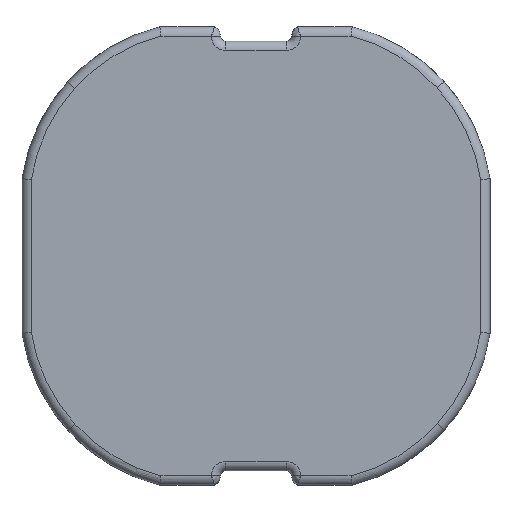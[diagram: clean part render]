
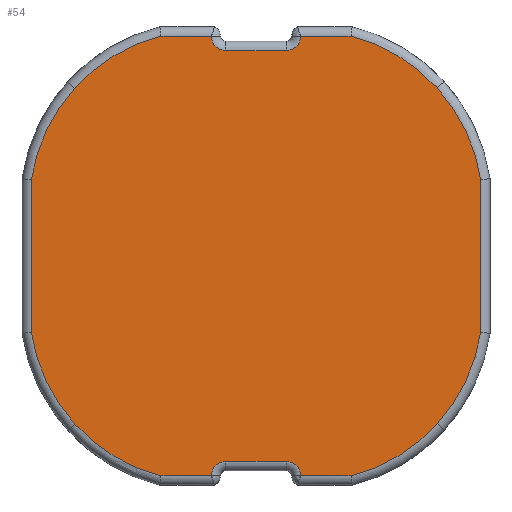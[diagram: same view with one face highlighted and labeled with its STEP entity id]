
A CAD part, front view. The second image highlights one B-rep face of the part: STEP entity #54.
In plain terms, the highlighted planar face has unit normal (0, -1, 0).
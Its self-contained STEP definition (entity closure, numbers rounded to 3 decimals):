
#54=ADVANCED_FACE('',(#146),#147,.F.);
#146=FACE_OUTER_BOUND('',#312,.T.);
#147=PLANE('',#313);
#312=EDGE_LOOP('',(#610,#611,#612,#613,#614,#615,#616,#617,#618,#619,#620,#621,#622,#623,#624,#625,#626,#627,#628,#629));
#313=AXIS2_PLACEMENT_3D('',#630,#631,#632);
#610=ORIENTED_EDGE('',*,*,#1247,.T.);
#611=ORIENTED_EDGE('',*,*,#1248,.T.);
#612=ORIENTED_EDGE('',*,*,#1249,.T.);
#613=ORIENTED_EDGE('',*,*,#1250,.T.);
#614=ORIENTED_EDGE('',*,*,#1251,.T.);
#615=ORIENTED_EDGE('',*,*,#1246,.T.);
#616=ORIENTED_EDGE('',*,*,#1252,.T.);
#617=ORIENTED_EDGE('',*,*,#1253,.T.);
#618=ORIENTED_EDGE('',*,*,#1242,.T.);
#619=ORIENTED_EDGE('',*,*,#1236,.T.);
#620=ORIENTED_EDGE('',*,*,#1254,.T.);
#621=ORIENTED_EDGE('',*,*,#1255,.T.);
#622=ORIENTED_EDGE('',*,*,#1256,.T.);
#623=ORIENTED_EDGE('',*,*,#1257,.T.);
#624=ORIENTED_EDGE('',*,*,#1258,.T.);
#625=ORIENTED_EDGE('',*,*,#1235,.T.);
#626=ORIENTED_EDGE('',*,*,#1259,.T.);
#627=ORIENTED_EDGE('',*,*,#1260,.T.);
#628=ORIENTED_EDGE('',*,*,#1231,.T.);
#629=ORIENTED_EDGE('',*,*,#1261,.T.);
#630=CARTESIAN_POINT('',(0.0,0.0,0.0));
#631=DIRECTION('',(0.0,1.0,0.0));
#632=DIRECTION('',(1.0,0.0,-0.0));
#1231=EDGE_CURVE('',#1456,#1460,#1462,.T.);
#1235=EDGE_CURVE('',#1464,#1468,#1470,.T.);
#1236=EDGE_CURVE('',#1471,#1472,#1473,.T.);
#1242=EDGE_CURVE('',#1480,#1471,#1483,.T.);
#1246=EDGE_CURVE('',#1485,#1489,#1491,.T.);
#1247=EDGE_CURVE('',#1492,#1493,#1494,.T.);
#1248=EDGE_CURVE('',#1493,#1495,#1496,.T.);
#1249=EDGE_CURVE('',#1495,#1497,#1498,.T.);
#1250=EDGE_CURVE('',#1497,#1499,#1500,.T.);
#1251=EDGE_CURVE('',#1499,#1485,#1501,.T.);
#1252=EDGE_CURVE('',#1489,#1502,#1503,.T.);
#1253=EDGE_CURVE('',#1502,#1480,#1504,.T.);
#1254=EDGE_CURVE('',#1472,#1505,#1506,.T.);
#1255=EDGE_CURVE('',#1505,#1507,#1508,.T.);
#1256=EDGE_CURVE('',#1507,#1509,#1510,.T.);
#1257=EDGE_CURVE('',#1509,#1511,#1512,.T.);
#1258=EDGE_CURVE('',#1511,#1464,#1513,.T.);
#1259=EDGE_CURVE('',#1468,#1514,#1515,.T.);
#1260=EDGE_CURVE('',#1514,#1456,#1516,.T.);
#1261=EDGE_CURVE('',#1460,#1492,#1517,.T.);
#1456=VERTEX_POINT('',#1816);
#1460=VERTEX_POINT('',#1820);
#1462=CIRCLE('',#1832,3.739);
#1464=VERTEX_POINT('',#1834);
#1468=VERTEX_POINT('',#1838);
#1470=CIRCLE('',#1850,3.739);
#1471=VERTEX_POINT('',#1851);
#1472=VERTEX_POINT('',#1852);
#1473=LINE('',#1853,#1854);
#1480=VERTEX_POINT('',#1886);
#1483=CIRCLE('',#1889,3.739);
#1485=VERTEX_POINT('',#1891);
#1489=VERTEX_POINT('',#1895);
#1491=CIRCLE('',#1907,3.739);
#1492=VERTEX_POINT('',#1908);
#1493=VERTEX_POINT('',#1909);
#1494=CIRCLE('',#1910,0.309);
#1495=VERTEX_POINT('',#1911);
#1496=LINE('',#1912,#1913);
#1497=VERTEX_POINT('',#1914);
#1498=CIRCLE('',#1915,0.309);
#1499=VERTEX_POINT('',#1916);
#1500=LINE('',#1917,#1918);
#1501=CIRCLE('',#1919,3.739);
#1502=VERTEX_POINT('',#1920);
#1503=LINE('',#1921,#1922);
#1504=CIRCLE('',#1923,3.739);
#1505=VERTEX_POINT('',#1924);
#1506=CIRCLE('',#1925,0.309);
#1507=VERTEX_POINT('',#1926);
#1508=LINE('',#1927,#1928);
#1509=VERTEX_POINT('',#1929);
#1510=CIRCLE('',#1930,0.309);
#1511=VERTEX_POINT('',#1931);
#1512=LINE('',#1932,#1933);
#1513=CIRCLE('',#1934,3.739);
#1514=VERTEX_POINT('',#1935);
#1515=LINE('',#1936,#1937);
#1516=CIRCLE('',#1938,3.739);
#1517=LINE('',#1939,#1940);
#1816=CARTESIAN_POINT('',(3.871,0.0,3.591));
#1820=CARTESIAN_POINT('',(2.03,0.0,4.7));
#1832=AXIS2_PLACEMENT_3D('',#2463,#2464,#2465);
#1834=CARTESIAN_POINT('',(3.876,0.0,-3.586));
#1838=CARTESIAN_POINT('',(4.8,0.0,-1.635));
#1850=AXIS2_PLACEMENT_3D('',#2472,#2473,#2474);
#1851=CARTESIAN_POINT('',(-2.03,0.0,-4.7));
#1852=CARTESIAN_POINT('',(-0.958,0.0,-4.7));
#1853=CARTESIAN_POINT('',(-2.03,0.0,-4.7));
#1854=VECTOR('',#2475,1.072);
#1886=CARTESIAN_POINT('',(-3.871,0.0,-3.591));
#1889=AXIS2_PLACEMENT_3D('',#2483,#2484,#2485);
#1891=CARTESIAN_POINT('',(-3.876,0.0,3.586));
#1895=CARTESIAN_POINT('',(-4.8,0.0,1.635));
#1907=AXIS2_PLACEMENT_3D('',#2492,#2493,#2494);
#1908=CARTESIAN_POINT('',(0.958,0.,4.7));
#1909=CARTESIAN_POINT('',(0.649,0.0,4.391));
#1910=AXIS2_PLACEMENT_3D('',#2495,#2496,#2497);
#1911=CARTESIAN_POINT('',(-0.649,0.0,4.391));
#1912=CARTESIAN_POINT('',(0.649,0.0,4.391));
#1913=VECTOR('',#2498,1.298);
#1914=CARTESIAN_POINT('',(-0.958,0.,4.7));
#1915=AXIS2_PLACEMENT_3D('',#2499,#2500,#2501);
#1916=CARTESIAN_POINT('',(-2.03,0.0,4.7));
#1917=CARTESIAN_POINT('',(-0.958,0.,4.7));
#1918=VECTOR('',#2502,1.072);
#1919=AXIS2_PLACEMENT_3D('',#2503,#2504,#2505);
#1920=CARTESIAN_POINT('',(-4.8,0.0,-1.635));
#1921=CARTESIAN_POINT('',(-4.8,0.0,1.635));
#1922=VECTOR('',#2506,3.27);
#1923=AXIS2_PLACEMENT_3D('',#2507,#2508,#2509);
#1924=CARTESIAN_POINT('',(-0.649,0.0,-4.391));
#1925=AXIS2_PLACEMENT_3D('',#2510,#2511,#2512);
#1926=CARTESIAN_POINT('',(0.649,0.0,-4.391));
#1927=CARTESIAN_POINT('',(-0.649,0.0,-4.391));
#1928=VECTOR('',#2513,1.298);
#1929=CARTESIAN_POINT('',(0.958,0.,-4.7));
#1930=AXIS2_PLACEMENT_3D('',#2514,#2515,#2516);
#1931=CARTESIAN_POINT('',(2.03,0.0,-4.7));
#1932=CARTESIAN_POINT('',(0.958,0.,-4.7));
#1933=VECTOR('',#2517,1.072);
#1934=AXIS2_PLACEMENT_3D('',#2518,#2519,#2520);
#1935=CARTESIAN_POINT('',(4.8,0.0,1.635));
#1936=CARTESIAN_POINT('',(4.8,0.0,-1.635));
#1937=VECTOR('',#2521,3.27);
#1938=AXIS2_PLACEMENT_3D('',#2522,#2523,#2524);
#1939=CARTESIAN_POINT('',(2.03,0.0,4.7));
#1940=VECTOR('',#2525,1.072);
#2463=CARTESIAN_POINT('',(1.102,0.0,1.077));
#2464=DIRECTION('',(0.0,-1.0,0.0));
#2465=DIRECTION('',(0.989,0.0,0.149));
#2472=CARTESIAN_POINT('',(1.102,0.0,-1.077));
#2473=DIRECTION('',(0.0,-1.0,0.0));
#2474=DIRECTION('',(0.248,0.0,-0.969));
#2475=DIRECTION('',(1.,0.,0.));
#2483=CARTESIAN_POINT('',(-1.102,0.0,-1.077));
#2484=DIRECTION('',(0.0,-1.0,-0.0));
#2485=DIRECTION('',(-0.989,0.0,-0.149));
#2492=CARTESIAN_POINT('',(-1.102,0.0,1.077));
#2493=DIRECTION('',(0.0,-1.0,0.0));
#2494=DIRECTION('',(-0.248,0.0,0.969));
#2495=CARTESIAN_POINT('',(0.649,0.0,4.7));
#2496=DIRECTION('',(-0.0,1.0,0.0));
#2497=DIRECTION('',(1.,0.0,0.001));
#2498=DIRECTION('',(-1.0,0.0,0.));
#2499=CARTESIAN_POINT('',(-0.649,0.0,4.7));
#2500=DIRECTION('',(0.0,1.0,0.0));
#2501=DIRECTION('',(0.0,0.0,-1.0));
#2502=DIRECTION('',(-1.,0.,0.));
#2503=CARTESIAN_POINT('',(-1.102,0.0,1.077));
#2504=DIRECTION('',(0.0,-1.0,0.0));
#2505=DIRECTION('',(-0.248,0.0,0.969));
#2506=DIRECTION('',(0.0,0.0,-1.0));
#2507=CARTESIAN_POINT('',(-1.102,0.0,-1.077));
#2508=DIRECTION('',(0.0,-1.0,-0.0));
#2509=DIRECTION('',(-0.989,0.0,-0.149));
#2510=CARTESIAN_POINT('',(-0.649,0.0,-4.7));
#2511=DIRECTION('',(0.0,1.0,0.0));
#2512=DIRECTION('',(-1.,0.0,-0.001));
#2513=DIRECTION('',(1.0,0.0,0.));
#2514=CARTESIAN_POINT('',(0.649,0.0,-4.7));
#2515=DIRECTION('',(0.0,1.0,0.0));
#2516=DIRECTION('',(0.0,0.0,1.0));
#2517=DIRECTION('',(1.,0.,0.));
#2518=CARTESIAN_POINT('',(1.102,0.0,-1.077));
#2519=DIRECTION('',(0.0,-1.0,0.0));
#2520=DIRECTION('',(0.248,0.0,-0.969));
#2521=DIRECTION('',(0.0,0.0,1.0));
#2522=CARTESIAN_POINT('',(1.102,0.0,1.077));
#2523=DIRECTION('',(0.0,-1.0,0.0));
#2524=DIRECTION('',(0.989,0.0,0.149));
#2525=DIRECTION('',(-1.,0.,0.));
